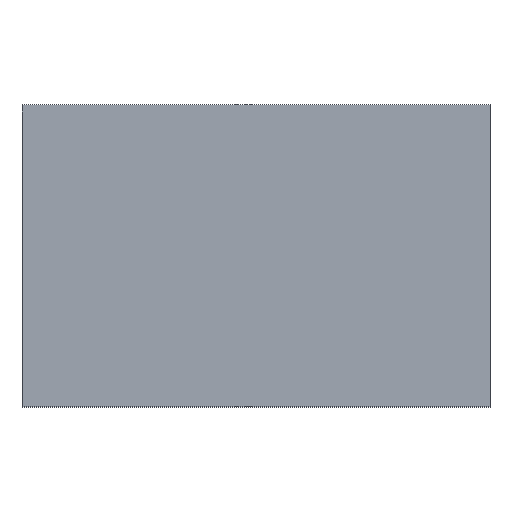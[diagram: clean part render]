
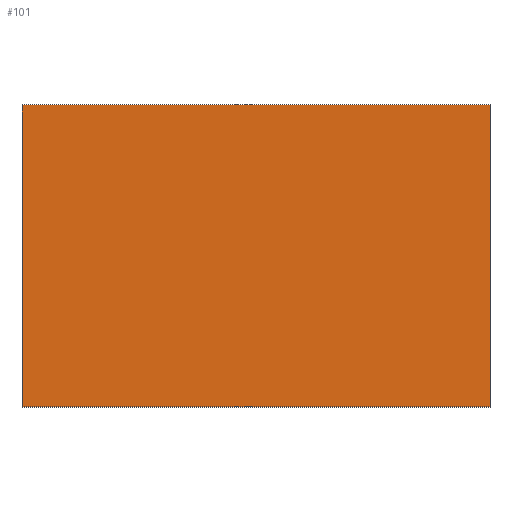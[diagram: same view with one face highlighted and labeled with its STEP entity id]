
A CAD part, top view. The second image highlights one B-rep face of the part: STEP entity #101.
In plain terms, the highlighted planar face has unit normal (0, 0, 1).
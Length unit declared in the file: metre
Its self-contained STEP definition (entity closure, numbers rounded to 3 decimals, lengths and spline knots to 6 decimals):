
#24=ORIENTED_EDGE('',*,*,#46,.F.);
#25=ORIENTED_EDGE('',*,*,#39,.F.);
#26=ORIENTED_EDGE('',*,*,#47,.T.);
#27=ORIENTED_EDGE('',*,*,#44,.T.);
#39=EDGE_CURVE('',#51,#49,#59,.T.);
#44=EDGE_CURVE('',#55,#54,#64,.T.);
#46=EDGE_CURVE('',#49,#54,#66,.T.);
#47=EDGE_CURVE('',#51,#55,#67,.T.);
#49=VERTEX_POINT('',#153);
#51=VERTEX_POINT('',#157);
#54=VERTEX_POINT('',#167);
#55=VERTEX_POINT('',#169);
#59=LINE('',#158,#71);
#64=LINE('',#168,#76);
#66=LINE('',#172,#78);
#67=LINE('',#173,#79);
#71=VECTOR('',#130,1.);
#76=VECTOR('',#139,1.);
#78=VECTOR('',#143,1.);
#79=VECTOR('',#144,1.);
#83=EDGE_LOOP('',(#24,#25,#26,#27));
#89=FACE_BOUND('',#83,.T.);
#95=PLANE('',#120);
#101=ADVANCED_FACE('',(#89),#95,.T.);
#120=AXIS2_PLACEMENT_3D('',#171,#141,#142);
#130=DIRECTION('',(-1.,0.,0.));
#139=DIRECTION('',(-1.,0.,0.));
#141=DIRECTION('',(0.,0.,1.));
#142=DIRECTION('',(0.,-1.,0.));
#143=DIRECTION('',(0.,1.,0.));
#144=DIRECTION('',(0.,1.,0.));
#153=CARTESIAN_POINT('',(0.,-0.01,0.032402));
#157=CARTESIAN_POINT('',(0.031,-0.01,0.032402));
#158=CARTESIAN_POINT('',(0.031,-0.01,0.032402));
#167=CARTESIAN_POINT('',(0.,0.01,0.032402));
#168=CARTESIAN_POINT('',(0.031,0.01,0.032402));
#169=CARTESIAN_POINT('',(0.031,0.01,0.032402));
#171=CARTESIAN_POINT('',(0.031,0.,0.032402));
#172=CARTESIAN_POINT('',(0.,0.,0.032402));
#173=CARTESIAN_POINT('',(0.031,0.,0.032402));
